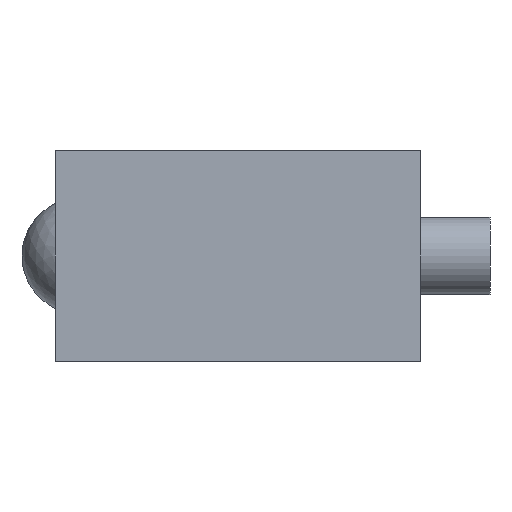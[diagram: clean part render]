
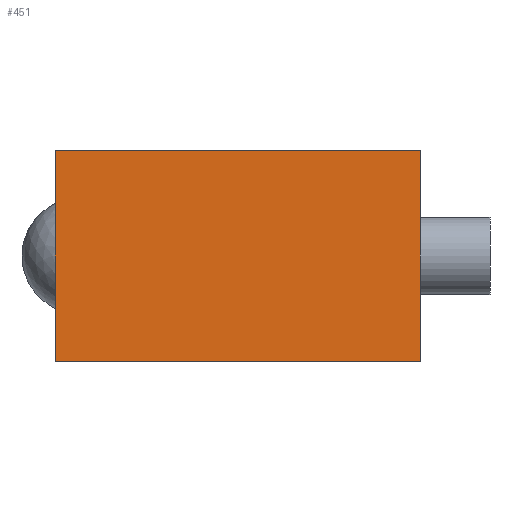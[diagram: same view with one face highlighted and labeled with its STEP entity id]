
A CAD part, left-side view. The second image highlights one B-rep face of the part: STEP entity #451.
In plain terms, the highlighted planar face has unit normal (-1, 0, 0).
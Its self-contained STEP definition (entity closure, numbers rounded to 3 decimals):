
#21=LINE('',#751,#37);
#27=LINE('',#766,#43);
#31=LINE('',#778,#47);
#33=LINE('',#781,#49);
#37=VECTOR('',#636,10.);
#43=VECTOR('',#646,10.);
#47=VECTOR('',#662,10.);
#49=VECTOR('',#666,10.);
#84=PLANE('',#531);
#116=FACE_OUTER_BOUND('',#170,.T.);
#170=EDGE_LOOP('',(#357,#358,#359,#360));
#226=VERTEX_POINT('',#749);
#227=VERTEX_POINT('',#750);
#233=VERTEX_POINT('',#763);
#234=VERTEX_POINT('',#765);
#264=EDGE_CURVE('',#226,#227,#21,.T.);
#271=EDGE_CURVE('',#233,#234,#27,.T.);
#277=EDGE_CURVE('',#234,#226,#31,.T.);
#279=EDGE_CURVE('',#227,#233,#33,.T.);
#357=ORIENTED_EDGE('',*,*,#271,.F.);
#358=ORIENTED_EDGE('',*,*,#279,.F.);
#359=ORIENTED_EDGE('',*,*,#264,.F.);
#360=ORIENTED_EDGE('',*,*,#277,.F.);
#451=ADVANCED_FACE('',(#116),#84,.T.);
#531=AXIS2_PLACEMENT_3D('',#780,#664,#665);
#636=DIRECTION('',(0.,0.,1.));
#646=DIRECTION('',(0.,0.,-1.));
#662=DIRECTION('',(0.,1.,0.));
#664=DIRECTION('center_axis',(-1.,0.,0.));
#665=DIRECTION('ref_axis',(0.,-1.,0.));
#666=DIRECTION('',(0.,-1.,0.));
#749=CARTESIAN_POINT('',(-285.,18.9,-10.9));
#750=CARTESIAN_POINT('',(-285.,18.9,10.9));
#751=CARTESIAN_POINT('',(-285.,18.9,0.));
#763=CARTESIAN_POINT('',(-285.,-18.9,10.9));
#765=CARTESIAN_POINT('',(-285.,-18.9,-10.9));
#766=CARTESIAN_POINT('',(-285.,-18.9,0.));
#778=CARTESIAN_POINT('',(-285.,18.9,-10.9));
#780=CARTESIAN_POINT('Origin',(-285.,18.9,0.));
#781=CARTESIAN_POINT('',(-285.,18.9,10.9));
